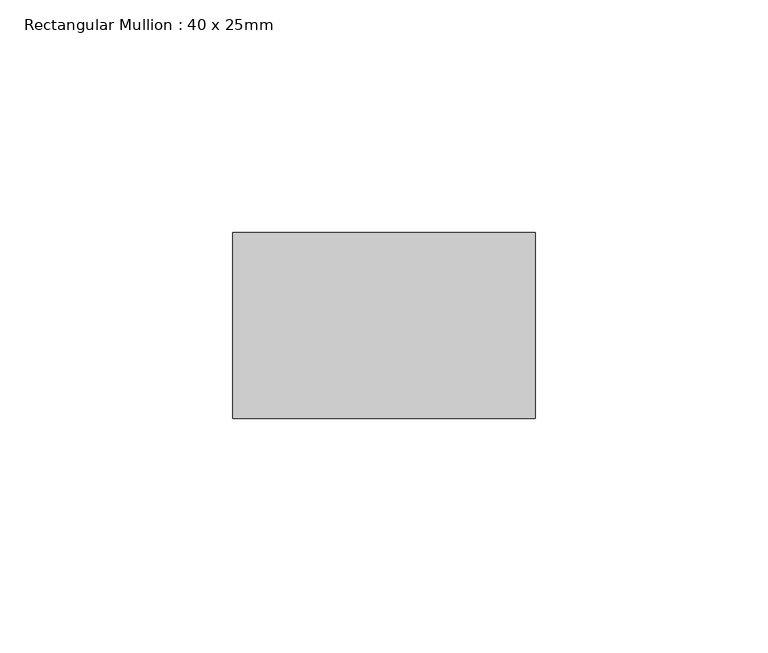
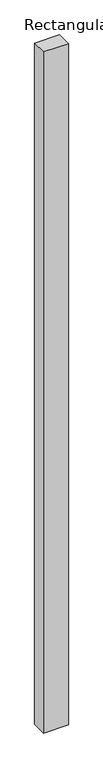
"""IFC4 building model written with IfcOpenShell, lengths in millimetres: member geometry, Rectangular Mullion : 40 x 25mm."""

import ifcopenshell
import ifcopenshell.guid

model = None  # the IFC model being written
_history = None  # IfcOwnerHistory: only IFC2X3 demands one
_inside = {}  # id of a spatial element -> (the spatial element, [elements in it])
_under = {}  # id of a project, library or spatial element -> (it, [spatial elements below it])
_declared = {}  # id of a project -> (the project, [libraries it declares])
_typed = {}  # id of a type object -> (the type object, [elements of that type])
_made_of = {}  # id of a material, layer set ... -> (it, [elements and type objects made of it])


def new_model(schema):
    """Start an empty IFC model of exactly this schema.

    Asked for "IFC4X3", IfcOpenShell would pick the latest addendum, in which some entities
    have other attributes; the version numbers below select the first issue.
    IFC2X3 requires an IfcOwnerHistory on every rooted entity: one is made here for all.
    """
    global model, _history
    if schema == "IFC4X3":
        model = ifcopenshell.file(schema_version=(4, 3, 0, 0))
    else:
        model = ifcopenshell.file(schema=schema)
    _inside.clear()
    _under.clear()
    _declared.clear()
    _typed.clear()
    _made_of.clear()
    _history = None
    if model.schema == "IFC2X3":
        org = make("IfcOrganization", Name="unknown")
        user = make(
            "IfcPersonAndOrganization",
            ThePerson=make("IfcPerson", FamilyName="unknown"),
            TheOrganization=org,
        )
        app = make(
            "IfcApplication",
            ApplicationDeveloper=org,
            Version="unknown",
            ApplicationFullName="unknown",
            ApplicationIdentifier="unknown",
        )
        _history = make(
            "IfcOwnerHistory",
            OwningUser=user,
            OwningApplication=app,
            ChangeAction="ADDED",
            CreationDate=0,
        )
    return model


def make(cls, **values):
    """One entity of the class cls with the attributes given. An attribute that is None is left unset."""
    return model.create_entity(
        cls, **{name: value for name, value in values.items() if value is not None}
    )


def rooted(cls, **values):
    """An entity with a GlobalId (a new one), such as an element, a storey or a relation."""
    return make(cls, GlobalId=ifcopenshell.guid.new(), OwnerHistory=_history, **values)


def si_unit(unit_type, name, prefix=None):
    """IfcSIUnit, for example si_unit("LENGTHUNIT", "METRE", prefix="MILLI")."""
    return make("IfcSIUnit", UnitType=unit_type, Prefix=prefix, Name=name)


def assignment(units):
    """IfcUnitAssignment: the units of a project."""
    return None if units is None else make("IfcUnitAssignment", Units=units)


def point(xyz):
    """IfcCartesianPoint."""
    return None if xyz is None else make("IfcCartesianPoint", Coordinates=xyz)


def direction(xyz):
    """IfcDirection."""
    return None if xyz is None else make("IfcDirection", DirectionRatios=xyz)


def frame(location, z_axis=None, x_axis=None):
    """IfcAxis2Placement3D, a coordinate frame: its origin and axes. An axis left out is left unset."""
    return make(
        "IfcAxis2Placement3D",
        Location=point(location),
        Axis=direction(z_axis),
        RefDirection=direction(x_axis),
    )


def origin():
    """The frame at (0, 0, 0) with its axes left unset."""
    return frame((0.0, 0.0, 0.0))


def place(relative_to, where):
    """IfcLocalPlacement: puts the frame where relative to a parent placement (None: the world)."""
    return make(
        "IfcLocalPlacement", PlacementRelTo=relative_to, RelativePlacement=where
    )


def context(
    kind, dimensions, precision=None, world=None, true_north=None, identifier=None
):
    """IfcGeometricRepresentationContext, for example the 3D "Model" context."""
    return make(
        "IfcGeometricRepresentationContext",
        ContextIdentifier=identifier,
        ContextType=kind,
        CoordinateSpaceDimension=dimensions,
        Precision=precision,
        WorldCoordinateSystem=world,
        TrueNorth=true_north,
    )


def project(units=None, contexts=None):
    """IfcProject with its units and contexts."""
    return rooted(
        "IfcProject",
        Name="project",
        RepresentationContexts=contexts,
        UnitsInContext=assignment(units),
    )


def spatial(cls, under=None, at=None, **own):
    """A site, building, storey or space (cls), placed at a placement, below another one or the project."""
    s = rooted(cls, ObjectPlacement=at, **own)
    if under is not None:
        _under.setdefault(under.id(), (under, []))[1].append(s)
    return s


def polyline(points):
    """IfcPolyline through the points."""
    return make("IfcPolyline", Points=[point(p) for p in points])


def outline(outer, holes=None, kind="AREA"):
    """IfcArbitraryClosedProfileDef: a profile drawn as a closed curve; with holes, ...WithVoids."""
    if holes is None:
        return make("IfcArbitraryClosedProfileDef", ProfileType=kind, OuterCurve=outer)
    return make(
        "IfcArbitraryProfileDefWithVoids",
        ProfileType=kind,
        OuterCurve=outer,
        InnerCurves=holes,
    )


def extrude(swept, where, along, depth):
    """IfcExtrudedAreaSolid: the profile swept, set in the frame where, extruded along a direction by depth."""
    return make(
        "IfcExtrudedAreaSolid",
        SweptArea=swept,
        Position=where,
        ExtrudedDirection=direction(along),
        Depth=depth,
    )


def shape(context_of_items, identifier, shape_type, items):
    """IfcShapeRepresentation: the items that make up one representation, for example the "Body"."""
    return make(
        "IfcShapeRepresentation",
        ContextOfItems=context_of_items,
        RepresentationIdentifier=identifier,
        RepresentationType=shape_type,
        Items=items,
    )


def source(mapping_origin, context_of_items, identifier, shape_type, items):
    """IfcRepresentationMap: a shape defined once, which mapped items show again and again."""
    return make(
        "IfcRepresentationMap",
        MappingOrigin=mapping_origin,
        MappedRepresentation=shape(context_of_items, identifier, shape_type, items),
    )


def transform(
    local_origin,
    x_axis=None,
    y_axis=None,
    z_axis=None,
    scale=None,
    scale2=None,
    scale3=None,
    uniform=True,
):
    """IfcCartesianTransformationOperator3D, or its non-uniform kind. x_axis, y_axis, z_axis: its Axis1, 2, 3."""
    if uniform:
        return make(
            "IfcCartesianTransformationOperator3D",
            Axis1=direction(x_axis),
            Axis2=direction(y_axis),
            LocalOrigin=point(local_origin),
            Scale=scale,
            Axis3=direction(z_axis),
        )
    return make(
        "IfcCartesianTransformationOperator3DnonUniform",
        Axis1=direction(x_axis),
        Axis2=direction(y_axis),
        LocalOrigin=point(local_origin),
        Scale=scale,
        Axis3=direction(z_axis),
        Scale2=scale2,
        Scale3=scale3,
    )


def mapped(mapping_source, mapping_target):
    """IfcMappedItem: shows the shape of a source again, moved by a transform."""
    return make(
        "IfcMappedItem", MappingSource=mapping_source, MappingTarget=mapping_target
    )


def made_of(thing, what):
    """Note that an element or type object is made of a material, layer set ...; save() writes the relation."""
    if what is not None:
        _made_of.setdefault(what.id(), (what, []))[1].append(thing)
    return thing


def element(
    cls,
    number,
    at=None,
    inside=None,
    cuts=None,
    type_object=None,
    material=None,
    context=None,
    identifier="Body",
    shape_type=None,
    held_by="IfcProductDefinitionShape",
    body=None,
    shapes=None,
    **own,
):
    """One element of the class cls, such as IfcWall. Its Tag is "e" and its number.

    at: its placement. inside: the storey or other place that contains it. cuts: it is an
    opening in that element (IfcRelVoidsElement). A single representation is given by context,
    identifier, shape_type and body (its items); several are given by shapes. held_by: the class
    of the entity that holds the representations. save() writes the other relations.
    """
    e = rooted(cls, Tag="e%d" % number, ObjectPlacement=at, **own)
    if body is not None:
        shapes = [shape(context, identifier, shape_type, body)]
    if shapes is not None:
        e.Representation = make(held_by, Representations=shapes)
    if inside is not None:
        _inside.setdefault(inside.id(), (inside, []))[1].append(e)
    if cuts is not None:
        rooted(
            "IfcRelVoidsElement", RelatingBuildingElement=cuts, RelatedOpeningElement=e
        )
    if type_object is not None:
        _typed.setdefault(type_object.id(), (type_object, []))[1].append(e)
    return made_of(e, material)


def aggregate(whole, parts):
    """IfcRelAggregates: a whole, such as a stair, and the parts it consists of."""
    return rooted("IfcRelAggregates", RelatingObject=whole, RelatedObjects=parts)


def save(model, path):
    """Write the relations noted so far, then the file.

    IfcRelAggregates (storeys below a building ...), IfcRelContainedInSpatialStructure (elements
    in a storey), IfcRelDefinesByType, IfcRelAssociatesMaterial and IfcRelDeclares: one each for
    every whole, place, type object, material and project.
    """
    for whole, parts in _under.values():
        aggregate(whole, parts)
    for where, things in _inside.values():
        rooted(
            "IfcRelContainedInSpatialStructure",
            RelatedElements=things,
            RelatingStructure=where,
        )
    for kind, things in _typed.values():
        rooted("IfcRelDefinesByType", RelatedObjects=things, RelatingType=kind)
    for what, things in _made_of.values():
        rooted("IfcRelAssociatesMaterial", RelatedObjects=things, RelatingMaterial=what)
    for by, libraries in _declared.values():
        rooted("IfcRelDeclares", RelatingContext=by, RelatedDefinitions=libraries)
    model.write(path)


def rectangular_mullion_40_x_25mm_1de6260f(model_context):
    return source(origin(), model_context, "Body", "SweptSolid", [
        extrude(outline(polyline([(0.0, -20.0), (0.0, -60.0), (-65.0, -60.0), (-65.0, -20.0), (0.0, -20.0)])), frame((0.0, 0.0, -1884.1522771), z_axis=(0.0, 0.0, 1.0), x_axis=(1.0, 0.0, 0.0)), (0.0, 0.0, 1.0), 1884.1522771),
    ])


if __name__ == "__main__":
    model = new_model("IFC4")
    model_context = context("Model", 3, world=origin())
    ifc_project = project(units=[si_unit("LENGTHUNIT", "METRE", prefix="MILLI")], contexts=[model_context])
    site = spatial("IfcSite", under=ifc_project)
    building = spatial("IfcBuilding", under=site)
    placement = place(None, origin())
    rectangular_mullion_40_x_25mm_shape = rectangular_mullion_40_x_25mm_1de6260f(model_context)
    element("IfcMember", 1, ObjectType="Rectangular Mullion : 40 x 25mm", at=placement, inside=building, context=model_context, shape_type="MappedRepresentation", body=[
        mapped(rectangular_mullion_40_x_25mm_shape, transform((0.0, 0.0, 0.0), x_axis=(1.0, 0.0, 0.0), y_axis=(0.0, 1.0, 0.0), z_axis=(0.0, 0.0, 1.0))),
    ])
    save(model, "model.ifc")
